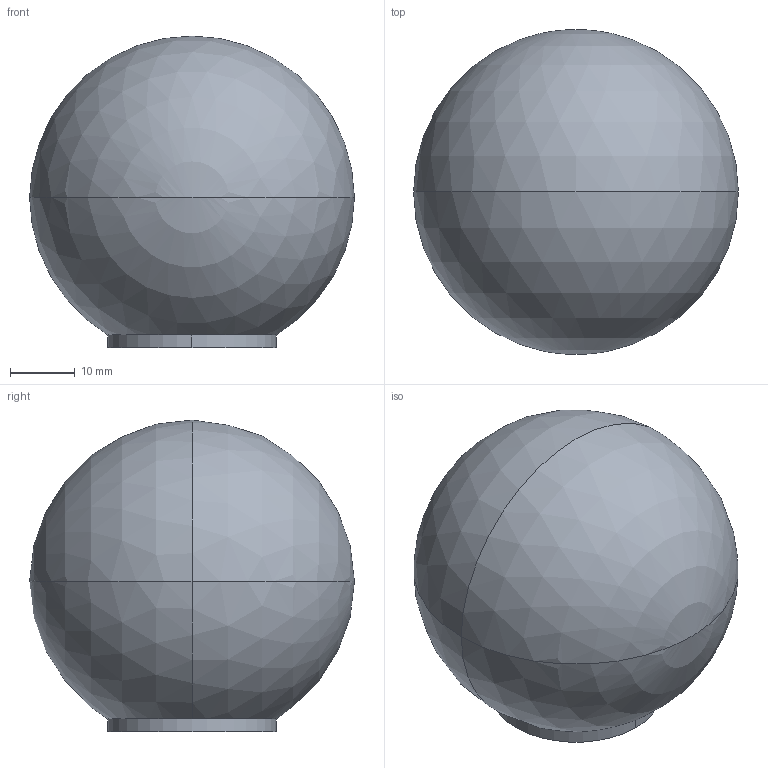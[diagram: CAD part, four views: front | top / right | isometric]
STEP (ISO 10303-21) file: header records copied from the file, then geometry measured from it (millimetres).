
FILE_DESCRIPTION (( 'STEP AP203' ), '1' );
FILE_NAME ('pb50x12r.STEP', '2021-10-26T04:47:24', ( '' ), ( '' ), 'SwSTEP 2.0', 'SolidWorks 2020', '' );
FILE_SCHEMA (( 'CONFIG_CONTROL_DESIGN' ));
Length unit declared in the file: millimetre
Products named in the file (1): pb50x12r
Bounding box: 50 x 50 x 48 mm (x, y, z)
Volume: 62281.5 mm3; surface area: 8742.9 mm2
Topology: 1 solids, 1 shells, 10 faces, 20 edges, 13 vertices
Faces by surface type: cylinder 4, sphere 4, plane 2
Entity records: 349 total; most frequent: DIRECTION 58, CARTESIAN_POINT 44, ORIENTED_EDGE 40, AXIS2_PLACEMENT_3D 27, EDGE_CURVE 20, CIRCLE 16, VERTEX_POINT 13, EDGE_LOOP 11
